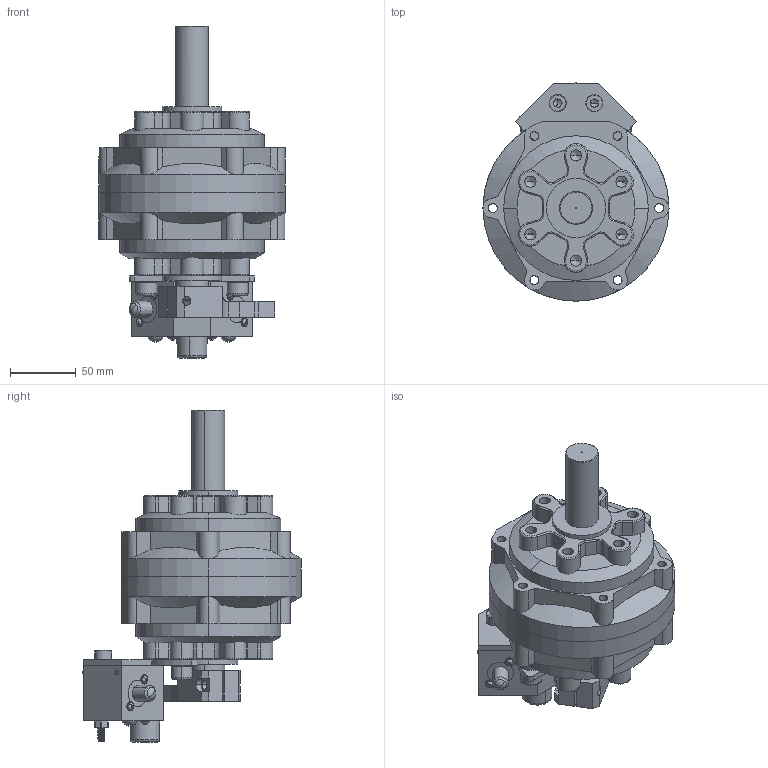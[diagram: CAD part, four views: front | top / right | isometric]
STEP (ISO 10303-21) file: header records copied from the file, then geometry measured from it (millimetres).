
FILE_DESCRIPTION (( 'STEP AP203' ), '1' );
FILE_NAME ('PRN300#-#-#-#-CR.STEP', '2016-01-14T16:49:09', ( '' ), ( '' ), 'SwSTEP 2.0', 'SolidWorks 2014', '' );
FILE_SCHEMA (( 'CONFIG_CONTROL_DESIGN' ));
Length unit declared in the file: millimetre
Products named in the file (19): 300-150-零件4; PRN300 (2); 300-M10螺絲; 300-150-邊底座; 300-150-六孔螺帽2; 300-150-活動珠身體; 300-150-M8螺絲墊片; PRN300 (3); PRN300 (1); PRN300#-#-#-#-CR; CRN300; 300-150-螺絲; 300-150-PRO-CR2; 300-150-螺帽; 300-150-M8螺絲; mark-PRN300; 300-150-圓頂-2; 300-150-PRN50-CR; 300-PRO-CR1-150
Assembly tree (32 placements, depth 3):
  PRN300#-#-#-#-CR
    PRN300 (2)
    PRN300 (1)
    PRN300 (3)
    mark-PRN300
    300-150-PRN50-CR
      300-PRO-CR1-150
      300-150-PRO-CR2
      300-150-零件4
      300-150-螺絲  x2
      300-150-M8螺絲  x2
      300-150-活動珠身體  x2
      300-150-邊底座  x2
      300-150-圓頂-2  x3
      300-150-M8螺絲墊片  x2
      300-150-六孔螺帽2  x6
      300-150-螺帽  x2
      300-M10螺絲  x2
    CRN300
Bounding box: 141.5 x 166.25 x 252.5 mm (x, y, z)
Volume: 1594513.1 mm3; surface area: 208714.6 mm2
Topology: 37 solids, 37 shells, 991 faces, 2448 edges, 1535 vertices
Faces by surface type: plane 407, cylinder 369, torus 90, cone 79, bspline 24, sphere 22
Full cylindrical faces by diameter (mm): 6.8 x1
Entity records: 29627 total; most frequent: CARTESIAN_POINT 8764, DIRECTION 4036, ORIENTED_EDGE 3758, EDGE_CURVE 1879, AXIS2_PLACEMENT_3D 1550, VERTEX_POINT 1197, LINE 936, VECTOR 936
